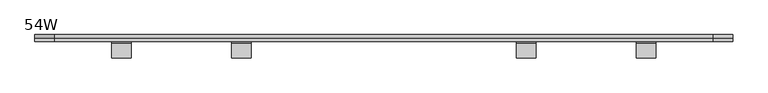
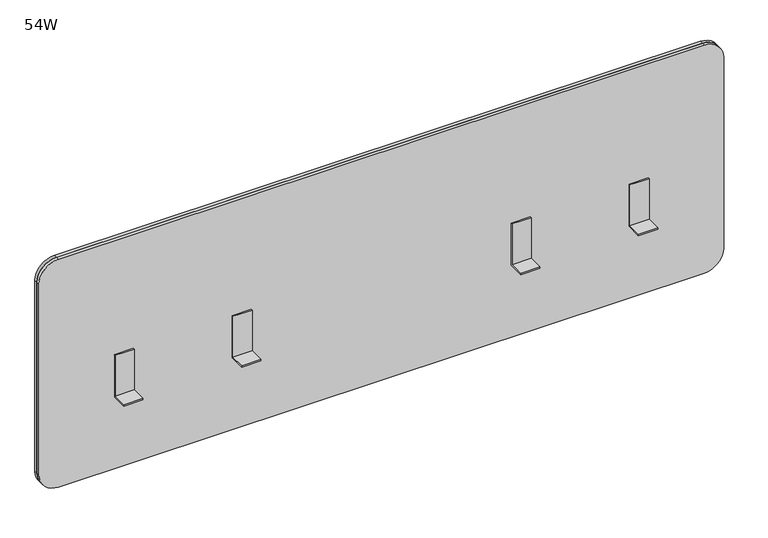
"""IFC4 building model written with IfcOpenShell, lengths in millimetres: furniture geometry, Steelcase Turnstone - Bivi - Screen - Straight : 54W."""

from ifc_helpers import new_model, si_unit, point, frame, frame_2d, origin, place, context, project, spatial, polyline, circle_curve, trimmed, segment, composite_curve, outline, extrude, source, transform, mapped, element, save


def furniture_54w_c7aa8312(model_context):
    return source(origin(), model_context, "Body", "SweptSolid", [
        extrude(outline(polyline([(-100.6456009, 700.9734272), (-100.6456009, 787.0495535), (-97.6872108, 787.0495535), (-97.6872108, 697.3921394), (-130.205922, 697.3921394), (-130.205922, 700.9734272), (-100.6456009, 700.9734272)])), frame((387.1038388, 0.0, 0.0), z_axis=(1.0, 0.0, 0.0), x_axis=(0.0, 1.0, 0.0)), (0.0, 0.0, 1.0), 38.2069702),
        extrude(outline(polyline([(-100.6456009, 700.9734272), (-100.6456009, 787.0495535), (-97.6872108, 787.0495535), (-97.6872108, 697.3921394), (-130.205922, 697.3921394), (-130.205922, 700.9734272), (-100.6456009, 700.9734272)])), frame((946.289191, 0.0, 0.0), z_axis=(1.0, 0.0, 0.0), x_axis=(0.0, 1.0, 0.0)), (0.0, 0.0, 1.0), 38.2069702),
        extrude(outline(polyline([(-100.6456009, 700.9734272), (-100.6456009, 787.0495535), (-97.6872108, 787.0495535), (-97.6872108, 697.3921394), (-130.205922, 697.3921394), (-130.205922, 700.9734272), (-100.6456009, 700.9734272)])), frame((1182.0617872, 0.0, 0.0), z_axis=(1.0, 0.0, 0.0), x_axis=(0.0, 1.0, 0.0)), (0.0, 0.0, 1.0), 38.2069702),
        extrude(outline(polyline([(-100.6456009, 700.9734272), (-100.6456009, 787.0495535), (-97.6872108, 787.0495535), (-97.6872108, 697.3921394), (-130.205922, 697.3921394), (-130.205922, 700.9734272), (-100.6456009, 700.9734272)])), frame((151.3312426, 0.0, 0.0), z_axis=(1.0, 0.0, 0.0), x_axis=(0.0, 1.0, 0.0)), (0.0, 0.0, 1.0), 38.2069702),
        extrude(outline(composite_curve([segment(polyline([(1028.3412889, 1332.23), (1028.3412889, 39.4397467)]), True, "CONTINUOUS"), segment(trimmed(circle_curve(frame_2d((988.9015421, 39.4397467)), 39.4397467), [point((1028.3412889, 39.4397467))], [point((988.9015421, 0.0))], False, "CARTESIAN"), True, "CONTINUOUS"), segment(polyline([(988.9015421, 0.0), (585.1278182, 0.0)]), True, "CONTINUOUS"), segment(trimmed(circle_curve(frame_2d((585.1278182, 39.37)), 39.37), [point((585.1278182, 0.0))], [point((545.7578182, 39.37))], False, "CARTESIAN"), True, "CONTINUOUS"), segment(polyline([(545.7578182, 39.37), (545.7578182, 1332.23)]), True, "CONTINUOUS"), segment(trimmed(circle_curve(frame_2d((585.1278182, 1332.23)), 39.37), [point((545.7578182, 1332.23))], [point((585.1278182, 1371.6))], False, "CARTESIAN"), True, "CONTINUOUS"), segment(polyline([(585.1278182, 1371.6), (988.9712889, 1371.6)]), True, "CONTINUOUS"), segment(trimmed(circle_curve(frame_2d((988.9712889, 1332.23)), 39.37), [point((988.9712889, 1371.6))], [point((1028.3412889, 1332.23))], False, "CARTESIAN"), True, "CONTINUOUS")], self_intersect=False)), frame((0.0, -90.878476, 0.0), z_axis=(0.0, 1.0, 0.0), x_axis=(0.0, 0.0, 1.0)), (0.0, 0.0, 1.0), 6.8087348),
        extrude(outline(composite_curve([segment(polyline([(1028.3412889, 1332.23), (1028.3412889, 39.4397467)]), True, "CONTINUOUS"), segment(trimmed(circle_curve(frame_2d((988.9015421, 39.4397467)), 39.4397467), [point((1028.3412889, 39.4397467))], [point((988.9015421, 0.0))], False, "CARTESIAN"), True, "CONTINUOUS"), segment(polyline([(988.9015421, 0.0), (585.1278182, 0.0)]), True, "CONTINUOUS"), segment(trimmed(circle_curve(frame_2d((585.1278182, 39.37)), 39.37), [point((585.1278182, 0.0))], [point((545.7578182, 39.37))], False, "CARTESIAN"), True, "CONTINUOUS"), segment(polyline([(545.7578182, 39.37), (545.7578182, 1332.23)]), True, "CONTINUOUS"), segment(trimmed(circle_curve(frame_2d((585.1278182, 1332.23)), 39.37), [point((545.7578182, 1332.23))], [point((585.1278182, 1371.6))], False, "CARTESIAN"), True, "CONTINUOUS"), segment(polyline([(585.1278182, 1371.6), (988.9712889, 1371.6)]), True, "CONTINUOUS"), segment(trimmed(circle_curve(frame_2d((988.9712889, 1332.23)), 39.37), [point((988.9712889, 1371.6))], [point((1028.3412889, 1332.23))], False, "CARTESIAN"), True, "CONTINUOUS")], self_intersect=False)), frame((0.0, -97.6872108, 0.0), z_axis=(0.0, 1.0, 0.0), x_axis=(0.0, 0.0, 1.0)), (0.0, 0.0, 1.0), 6.8087348),
    ])


if __name__ == "__main__":
    model = new_model("IFC4")
    model_context = context("Model", 3, world=origin())
    ifc_project = project(units=[si_unit("LENGTHUNIT", "METRE", prefix="MILLI")], contexts=[model_context])
    site = spatial("IfcSite", under=ifc_project)
    building = spatial("IfcBuilding", under=site)
    placement = place(None, origin())
    furniture_54w_shape = furniture_54w_c7aa8312(model_context)
    element("IfcFurniture", 1, ObjectType="Steelcase Turnstone - Bivi - Screen - Straight : 54W", at=placement, inside=building, context=model_context, shape_type="MappedRepresentation", body=[
        mapped(furniture_54w_shape, transform((0.0, 0.0, 0.0), x_axis=(1.0, 0.0, 0.0), y_axis=(0.0, 1.0, 0.0), z_axis=(0.0, 0.0, 1.0))),
    ])
    save(model, "model.ifc")
